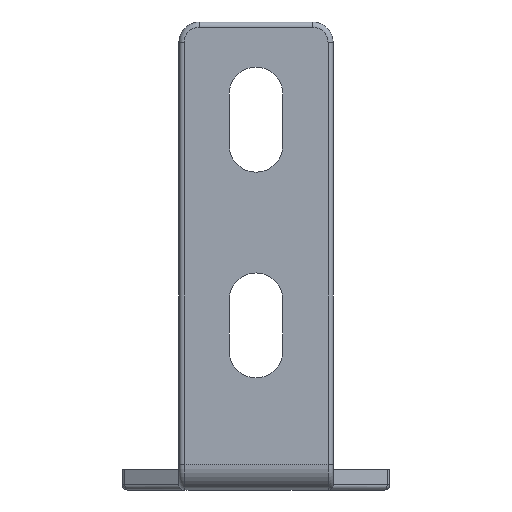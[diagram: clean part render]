
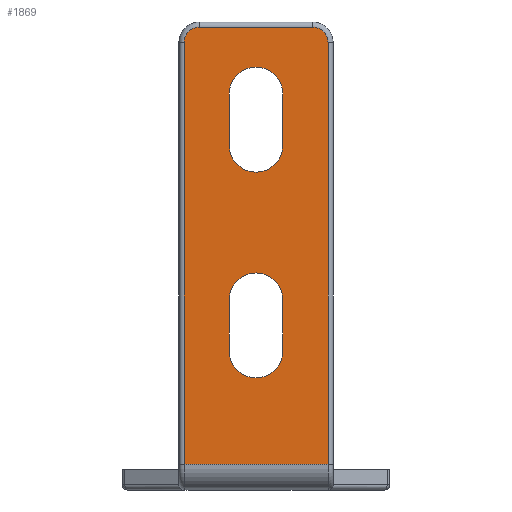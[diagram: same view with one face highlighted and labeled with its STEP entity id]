
A CAD part, front view. The second image highlights one B-rep face of the part: STEP entity #1869.
In plain terms, the highlighted planar face has unit normal (0, -1, 0).
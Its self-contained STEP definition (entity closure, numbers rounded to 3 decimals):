
#444=DIRECTION('',(0.,0.,1.));
#445=VECTOR('',#444,5.);
#446=CARTESIAN_POINT('',(2.6,-14.5,12.5));
#447=LINE('',#446,#445);
#448=DIRECTION('',(0.,0.,-1.));
#449=VECTOR('',#448,5.);
#450=CARTESIAN_POINT('',(-2.6,-14.5,17.5));
#451=LINE('',#450,#449);
#452=DIRECTION('',(0.,0.,-1.));
#453=VECTOR('',#452,5.);
#454=CARTESIAN_POINT('',(-2.6,-14.5,37.5));
#455=LINE('',#454,#453);
#456=DIRECTION('',(0.,0.,1.));
#457=VECTOR('',#456,5.);
#458=CARTESIAN_POINT('',(2.6,-14.5,32.5));
#459=LINE('',#458,#457);
#460=DIRECTION('',(-1.,0.,0.));
#461=VECTOR('',#460,14.);
#462=CARTESIAN_POINT('',(7.,-14.5,1.5));
#463=LINE('',#462,#461);
#464=DIRECTION('',(0.,0.,1.));
#465=VECTOR('',#464,41.);
#466=CARTESIAN_POINT('',(-7.,-14.5,1.5));
#467=LINE('',#466,#465);
#468=CARTESIAN_POINT('',(-5.5,-14.5,42.5));
#469=DIRECTION('',(0.,1.,0.));
#470=DIRECTION('',(-1.,0.,0.));
#471=AXIS2_PLACEMENT_3D('',#468,#469,#470);
#473=DIRECTION('',(1.,0.,0.));
#474=VECTOR('',#473,11.);
#475=CARTESIAN_POINT('',(-5.5,-14.5,44.));
#476=LINE('',#475,#474);
#477=CARTESIAN_POINT('',(5.5,-14.5,42.5));
#478=DIRECTION('',(0.,1.,0.));
#479=DIRECTION('',(0.,0.,1.));
#480=AXIS2_PLACEMENT_3D('',#477,#478,#479);
#482=DIRECTION('',(0.,0.,-1.));
#483=VECTOR('',#482,41.);
#484=CARTESIAN_POINT('',(7.,-14.5,42.5));
#485=LINE('',#484,#483);
#494=CARTESIAN_POINT('',(0.,-14.5,12.5));
#495=DIRECTION('',(0.,1.,0.));
#496=DIRECTION('',(1.,0.,0.));
#497=AXIS2_PLACEMENT_3D('',#494,#495,#496);
#517=CARTESIAN_POINT('',(0.,-14.5,17.5));
#518=DIRECTION('',(0.,1.,0.));
#519=DIRECTION('',(-1.,0.,0.));
#520=AXIS2_PLACEMENT_3D('',#517,#518,#519);
#572=CARTESIAN_POINT('',(0.,-14.5,32.5));
#573=DIRECTION('',(0.,1.,0.));
#574=DIRECTION('',(1.,0.,0.));
#575=AXIS2_PLACEMENT_3D('',#572,#573,#574);
#595=CARTESIAN_POINT('',(0.,-14.5,37.5));
#596=DIRECTION('',(0.,1.,0.));
#597=DIRECTION('',(-1.,0.,0.));
#598=AXIS2_PLACEMENT_3D('',#595,#596,#597);
#1215=CARTESIAN_POINT('',(7.,-14.5,1.5));
#1216=CARTESIAN_POINT('',(-7.,-14.5,1.5));
#1217=VERTEX_POINT('',#1215);
#1218=VERTEX_POINT('',#1216);
#1227=CARTESIAN_POINT('',(2.6,-14.5,12.5));
#1229=VERTEX_POINT('',#1227);
#1231=CARTESIAN_POINT('',(-2.6,-14.5,12.5));
#1233=VERTEX_POINT('',#1231);
#1236=CARTESIAN_POINT('',(2.6,-14.5,17.5));
#1238=VERTEX_POINT('',#1236);
#1240=CARTESIAN_POINT('',(-2.6,-14.5,17.5));
#1242=VERTEX_POINT('',#1240);
#1243=CARTESIAN_POINT('',(2.6,-14.5,32.5));
#1245=VERTEX_POINT('',#1243);
#1247=CARTESIAN_POINT('',(-2.6,-14.5,32.5));
#1249=VERTEX_POINT('',#1247);
#1252=CARTESIAN_POINT('',(2.6,-14.5,37.5));
#1254=VERTEX_POINT('',#1252);
#1256=CARTESIAN_POINT('',(-2.6,-14.5,37.5));
#1258=VERTEX_POINT('',#1256);
#1303=CARTESIAN_POINT('',(7.,-14.5,42.5));
#1304=VERTEX_POINT('',#1303);
#1305=CARTESIAN_POINT('',(5.5,-14.5,44.));
#1306=VERTEX_POINT('',#1305);
#1307=CARTESIAN_POINT('',(-5.5,-14.5,44.));
#1308=VERTEX_POINT('',#1307);
#1309=CARTESIAN_POINT('',(-7.,-14.5,42.5));
#1310=VERTEX_POINT('',#1309);
#1832=CARTESIAN_POINT('',(-7.5,-14.5,-1.));
#1833=DIRECTION('',(0.,-1.,0.));
#1834=DIRECTION('',(1.,0.,0.));
#1835=AXIS2_PLACEMENT_3D('',#1832,#1833,#1834);
#1836=PLANE('',#1835);
#1838=ORIENTED_EDGE('',*,*,#1837,.T.);
#1840=ORIENTED_EDGE('',*,*,#1839,.T.);
#1842=ORIENTED_EDGE('',*,*,#1841,.T.);
#1844=ORIENTED_EDGE('',*,*,#1843,.T.);
#1845=ORIENTED_EDGE('',*,*,#1812,.T.);
#1846=ORIENTED_EDGE('',*,*,#1826,.T.);
#1847=EDGE_LOOP('',(#1838,#1840,#1842,#1844,#1845,#1846));
#1848=FACE_OUTER_BOUND('',#1847,.F.);
#1850=ORIENTED_EDGE('',*,*,#1849,.T.);
#1852=ORIENTED_EDGE('',*,*,#1851,.F.);
#1854=ORIENTED_EDGE('',*,*,#1853,.T.);
#1856=ORIENTED_EDGE('',*,*,#1855,.F.);
#1857=EDGE_LOOP('',(#1850,#1852,#1854,#1856));
#1858=FACE_BOUND('',#1857,.F.);
#1860=ORIENTED_EDGE('',*,*,#1859,.T.);
#1862=ORIENTED_EDGE('',*,*,#1861,.F.);
#1864=ORIENTED_EDGE('',*,*,#1863,.T.);
#1866=ORIENTED_EDGE('',*,*,#1865,.F.);
#1867=EDGE_LOOP('',(#1860,#1862,#1864,#1866));
#1868=FACE_BOUND('',#1867,.F.);
#472=CIRCLE('',#471,1.5);
#481=CIRCLE('',#480,1.5);
#498=CIRCLE('',#497,2.6);
#521=CIRCLE('',#520,2.6);
#576=CIRCLE('',#575,2.6);
#599=CIRCLE('',#598,2.6);
#1812=EDGE_CURVE('',#1306,#1304,#481,.T.);
#1826=EDGE_CURVE('',#1304,#1217,#485,.T.);
#1837=EDGE_CURVE('',#1217,#1218,#463,.T.);
#1839=EDGE_CURVE('',#1218,#1310,#467,.T.);
#1841=EDGE_CURVE('',#1310,#1308,#472,.T.);
#1843=EDGE_CURVE('',#1308,#1306,#476,.T.);
#1849=EDGE_CURVE('',#1258,#1249,#455,.T.);
#1851=EDGE_CURVE('',#1245,#1249,#576,.T.);
#1853=EDGE_CURVE('',#1245,#1254,#459,.T.);
#1855=EDGE_CURVE('',#1258,#1254,#599,.T.);
#1859=EDGE_CURVE('',#1229,#1238,#447,.T.);
#1861=EDGE_CURVE('',#1242,#1238,#521,.T.);
#1863=EDGE_CURVE('',#1242,#1233,#451,.T.);
#1865=EDGE_CURVE('',#1229,#1233,#498,.T.);
#1869=ADVANCED_FACE('',(#1848,#1858,#1868),#1836,.T.);
